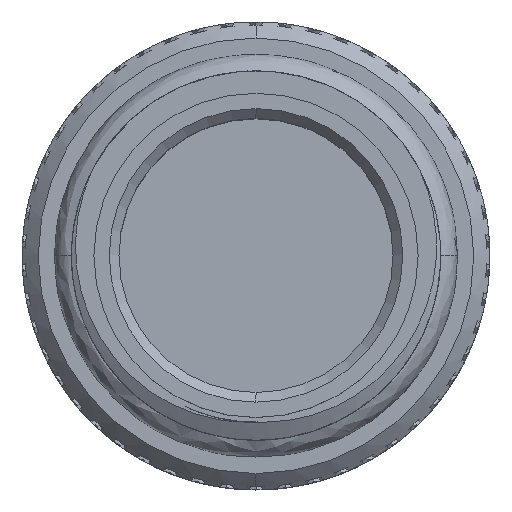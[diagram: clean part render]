
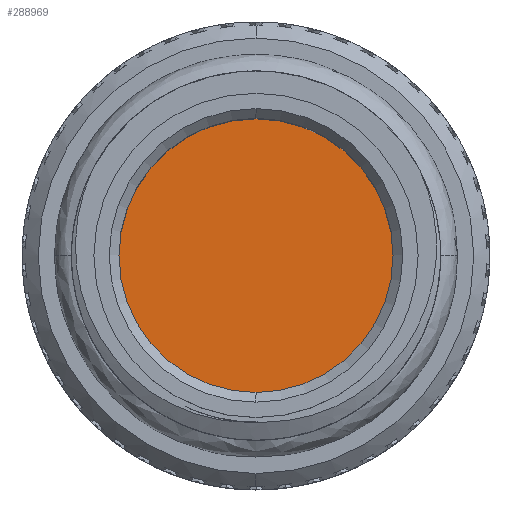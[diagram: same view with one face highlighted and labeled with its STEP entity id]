
A CAD part, top view. The second image highlights one B-rep face of the part: STEP entity #288969.
In plain terms, the highlighted planar face has unit normal (0, 0, 1).
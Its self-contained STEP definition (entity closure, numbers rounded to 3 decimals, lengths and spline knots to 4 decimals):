
#17866 = EDGE_CURVE ( 'NONE', #288855, #101394, #286898, .T. ) ;
#25063 = CARTESIAN_POINT ( 'NONE',  ( 0., 4.25, -9.3 ) ) ;
#42480 = CIRCLE ( 'NONE', #149971, 4.25 ) ;
#47272 = ORIENTED_EDGE ( 'NONE', *, *, #194745, .T. ) ;
#61165 = PLANE ( 'NONE',  #303248 ) ;
#96188 = DIRECTION ( 'NONE',  ( -1., 0., 0. ) ) ;
#101394 = VERTEX_POINT ( 'NONE', #182738 ) ;
#116927 = ORIENTED_EDGE ( 'NONE', *, *, #17866, .T. ) ;
#122204 = CARTESIAN_POINT ( 'NONE',  ( 0., 0., -9.3 ) ) ;
#125263 = AXIS2_PLACEMENT_3D ( 'NONE', #258701, #136245, #275639 ) ;
#136245 = DIRECTION ( 'NONE',  ( 0., 0., 1. ) ) ;
#149971 = AXIS2_PLACEMENT_3D ( 'NONE', #122204, #234135, #96188 ) ;
#154622 = CARTESIAN_POINT ( 'NONE',  ( 0., 0., -9.3 ) ) ;
#182738 = CARTESIAN_POINT ( 'NONE',  ( 0., -4.25, -9.3 ) ) ;
#194745 = EDGE_CURVE ( 'NONE', #101394, #288855, #42480, .T. ) ;
#234135 = DIRECTION ( 'NONE',  ( 0., 0., 1. ) ) ;
#245957 = EDGE_LOOP ( 'NONE', ( #47272, #116927 ) ) ;
#248063 = DIRECTION ( 'NONE',  ( 1., 0., 0. ) ) ;
#258701 = CARTESIAN_POINT ( 'NONE',  ( 0., 0., -9.3 ) ) ;
#271029 = FACE_OUTER_BOUND ( 'NONE', #245957, .T. ) ;
#275639 = DIRECTION ( 'NONE',  ( -1., 0., 0. ) ) ;
#286898 = CIRCLE ( 'NONE', #125263, 4.25 ) ;
#288855 = VERTEX_POINT ( 'NONE', #25063 ) ;
#288969 = ADVANCED_FACE ( 'NONE', ( #271029 ), #61165, .T. ) ;
#295539 = DIRECTION ( 'NONE',  ( 0., 0., 1. ) ) ;
#303248 = AXIS2_PLACEMENT_3D ( 'NONE', #154622, #295539, #248063 ) ;
